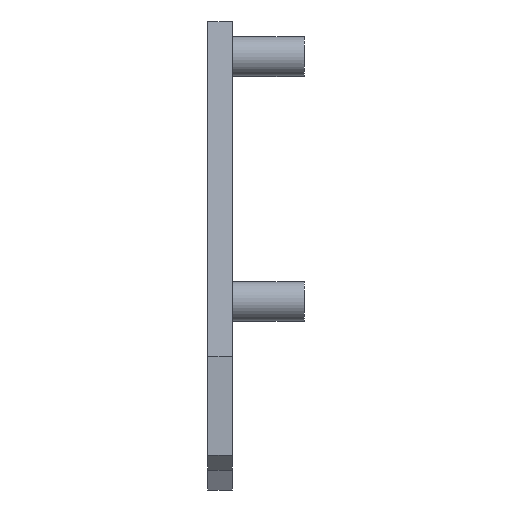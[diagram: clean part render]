
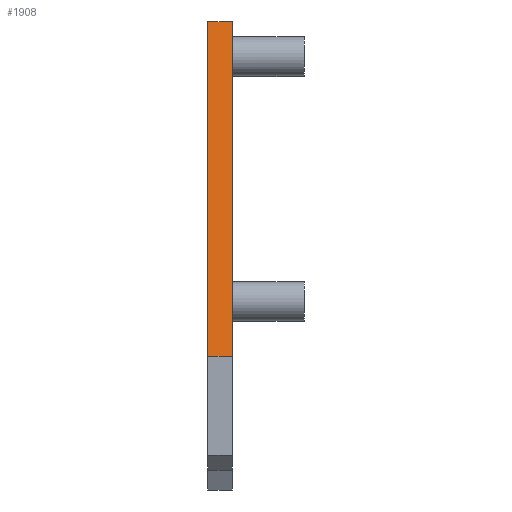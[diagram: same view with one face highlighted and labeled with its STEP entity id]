
A CAD part, front view. The second image highlights one B-rep face of the part: STEP entity #1908.
In plain terms, the highlighted planar face has unit normal (0, -0.988, 0.154).
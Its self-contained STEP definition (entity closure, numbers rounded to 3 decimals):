
#44 = PLANE('',#45);
#45 = AXIS2_PLACEMENT_3D('',#46,#47,#48);
#46 = CARTESIAN_POINT('',(27.5,-27.8,-277.));
#47 = DIRECTION('',(-0.,1.,0.));
#48 = DIRECTION('',(0.,0.,-1.));
#72 = PLANE('',#73);
#73 = AXIS2_PLACEMENT_3D('',#74,#75,#76);
#74 = CARTESIAN_POINT('',(32.5,31.229,-258.419));
#75 = DIRECTION('',(1.,0.,0.));
#76 = DIRECTION('',(-0.,0.,1.));
#126 = PLANE('',#127);
#127 = AXIS2_PLACEMENT_3D('',#128,#129,#130);
#128 = CARTESIAN_POINT('',(27.5,31.229,-258.419));
#129 = DIRECTION('',(1.,0.,0.));
#130 = DIRECTION('',(-0.,0.,1.));
#141 = EDGE_CURVE('',#142,#144,#146,.T.);
#142 = VERTEX_POINT('',#143);
#143 = CARTESIAN_POINT('',(27.5,-27.8,-277.));
#144 = VERTEX_POINT('',#145);
#145 = CARTESIAN_POINT('',(32.5,-27.8,-277.));
#146 = SURFACE_CURVE('',#147,(#151,#158),.PCURVE_S1.);
#147 = LINE('',#148,#149);
#148 = CARTESIAN_POINT('',(27.5,-27.8,-277.));
#149 = VECTOR('',#150,1.);
#150 = DIRECTION('',(1.,0.,0.));
#151 = PCURVE('',#44,#152);
#152 = DEFINITIONAL_REPRESENTATION('',(#153),#157);
#153 = LINE('',#154,#155);
#154 = CARTESIAN_POINT('',(0.,0.));
#155 = VECTOR('',#156,1.);
#156 = DIRECTION('',(0.,-1.));
#157 = ( GEOMETRIC_REPRESENTATION_CONTEXT(2) 
PARAMETRIC_REPRESENTATION_CONTEXT() REPRESENTATION_CONTEXT('2D SPACE',''
  ) );
#158 = PCURVE('',#159,#164);
#159 = PLANE('',#160);
#160 = AXIS2_PLACEMENT_3D('',#161,#162,#163);
#161 = CARTESIAN_POINT('',(27.5,-17.3,-209.637));
#162 = DIRECTION('',(0.,0.988,-0.154));
#163 = DIRECTION('',(0.,-0.154,-0.988));
#164 = DEFINITIONAL_REPRESENTATION('',(#165),#169);
#165 = LINE('',#166,#167);
#166 = CARTESIAN_POINT('',(68.177,0.));
#167 = VECTOR('',#168,1.);
#168 = DIRECTION('',(0.,-1.));
#169 = ( GEOMETRIC_REPRESENTATION_CONTEXT(2) 
PARAMETRIC_REPRESENTATION_CONTEXT() REPRESENTATION_CONTEXT('2D SPACE',''
  ) );
#543 = VERTEX_POINT('',#544);
#544 = CARTESIAN_POINT('',(27.5,-17.3,-209.637));
#558 = PLANE('',#559);
#559 = AXIS2_PLACEMENT_3D('',#560,#561,#562);
#560 = CARTESIAN_POINT('',(27.5,14.7,-209.637));
#561 = DIRECTION('',(0.,0.,-1.));
#562 = DIRECTION('',(0.,-1.,0.));
#570 = EDGE_CURVE('',#543,#142,#571,.T.);
#571 = SURFACE_CURVE('',#572,(#576,#583),.PCURVE_S1.);
#572 = LINE('',#573,#574);
#573 = CARTESIAN_POINT('',(27.5,-17.3,-209.637));
#574 = VECTOR('',#575,1.);
#575 = DIRECTION('',(0.,-0.154,-0.988));
#576 = PCURVE('',#126,#577);
#577 = DEFINITIONAL_REPRESENTATION('',(#578),#582);
#578 = LINE('',#579,#580);
#579 = CARTESIAN_POINT('',(48.782,48.529));
#580 = VECTOR('',#581,1.);
#581 = DIRECTION('',(-0.988,0.154));
#582 = ( GEOMETRIC_REPRESENTATION_CONTEXT(2) 
PARAMETRIC_REPRESENTATION_CONTEXT() REPRESENTATION_CONTEXT('2D SPACE',''
  ) );
#583 = PCURVE('',#159,#584);
#584 = DEFINITIONAL_REPRESENTATION('',(#585),#589);
#585 = LINE('',#586,#587);
#586 = CARTESIAN_POINT('',(0.,0.));
#587 = VECTOR('',#588,1.);
#588 = DIRECTION('',(1.,0.));
#589 = ( GEOMETRIC_REPRESENTATION_CONTEXT(2) 
PARAMETRIC_REPRESENTATION_CONTEXT() REPRESENTATION_CONTEXT('2D SPACE',''
  ) );
#1120 = EDGE_CURVE('',#1121,#144,#1123,.T.);
#1121 = VERTEX_POINT('',#1122);
#1122 = CARTESIAN_POINT('',(32.5,-17.3,-209.637));
#1123 = SURFACE_CURVE('',#1124,(#1128,#1135),.PCURVE_S1.);
#1124 = LINE('',#1125,#1126);
#1125 = CARTESIAN_POINT('',(32.5,-17.3,-209.637));
#1126 = VECTOR('',#1127,1.);
#1127 = DIRECTION('',(0.,-0.154,-0.988));
#1128 = PCURVE('',#72,#1129);
#1129 = DEFINITIONAL_REPRESENTATION('',(#1130),#1134);
#1130 = LINE('',#1131,#1132);
#1131 = CARTESIAN_POINT('',(48.782,48.529));
#1132 = VECTOR('',#1133,1.);
#1133 = DIRECTION('',(-0.988,0.154));
#1134 = ( GEOMETRIC_REPRESENTATION_CONTEXT(2) 
PARAMETRIC_REPRESENTATION_CONTEXT() REPRESENTATION_CONTEXT('2D SPACE',''
  ) );
#1135 = PCURVE('',#159,#1136);
#1136 = DEFINITIONAL_REPRESENTATION('',(#1137),#1141);
#1137 = LINE('',#1138,#1139);
#1138 = CARTESIAN_POINT('',(0.,-5.));
#1139 = VECTOR('',#1140,1.);
#1140 = DIRECTION('',(1.,0.));
#1141 = ( GEOMETRIC_REPRESENTATION_CONTEXT(2) 
PARAMETRIC_REPRESENTATION_CONTEXT() REPRESENTATION_CONTEXT('2D SPACE',''
  ) );
#1908 = ADVANCED_FACE('',(#1909),#159,.F.);
#1909 = FACE_BOUND('',#1910,.F.);
#1910 = EDGE_LOOP('',(#1911,#1932,#1933,#1934));
#1911 = ORIENTED_EDGE('',*,*,#1912,.T.);
#1912 = EDGE_CURVE('',#543,#1121,#1913,.T.);
#1913 = SURFACE_CURVE('',#1914,(#1918,#1925),.PCURVE_S1.);
#1914 = LINE('',#1915,#1916);
#1915 = CARTESIAN_POINT('',(27.5,-17.3,-209.637));
#1916 = VECTOR('',#1917,1.);
#1917 = DIRECTION('',(1.,0.,0.));
#1918 = PCURVE('',#159,#1919);
#1919 = DEFINITIONAL_REPRESENTATION('',(#1920),#1924);
#1920 = LINE('',#1921,#1922);
#1921 = CARTESIAN_POINT('',(0.,0.));
#1922 = VECTOR('',#1923,1.);
#1923 = DIRECTION('',(0.,-1.));
#1924 = ( GEOMETRIC_REPRESENTATION_CONTEXT(2) 
PARAMETRIC_REPRESENTATION_CONTEXT() REPRESENTATION_CONTEXT('2D SPACE',''
  ) );
#1925 = PCURVE('',#558,#1926);
#1926 = DEFINITIONAL_REPRESENTATION('',(#1927),#1931);
#1927 = LINE('',#1928,#1929);
#1928 = CARTESIAN_POINT('',(32.,0.));
#1929 = VECTOR('',#1930,1.);
#1930 = DIRECTION('',(0.,-1.));
#1931 = ( GEOMETRIC_REPRESENTATION_CONTEXT(2) 
PARAMETRIC_REPRESENTATION_CONTEXT() REPRESENTATION_CONTEXT('2D SPACE',''
  ) );
#1932 = ORIENTED_EDGE('',*,*,#1120,.T.);
#1933 = ORIENTED_EDGE('',*,*,#141,.F.);
#1934 = ORIENTED_EDGE('',*,*,#570,.F.);
